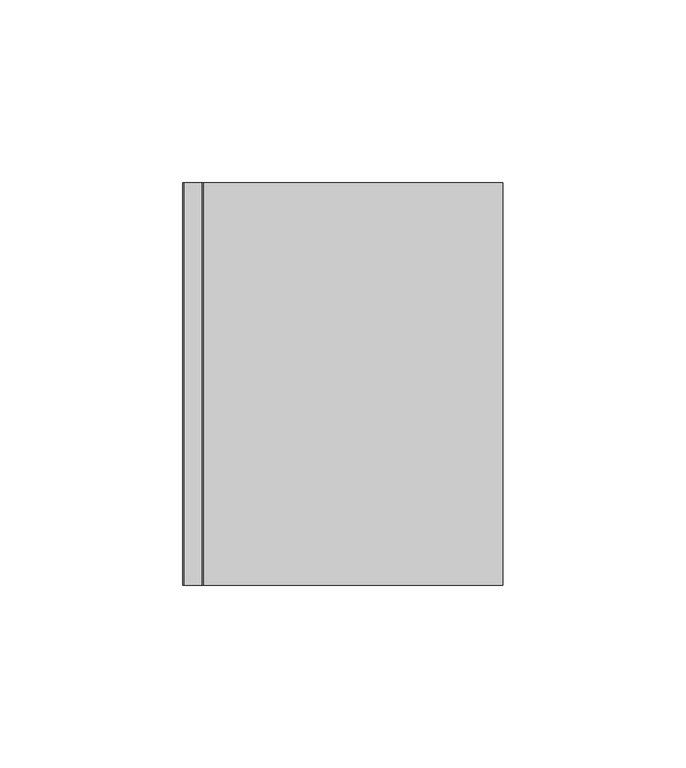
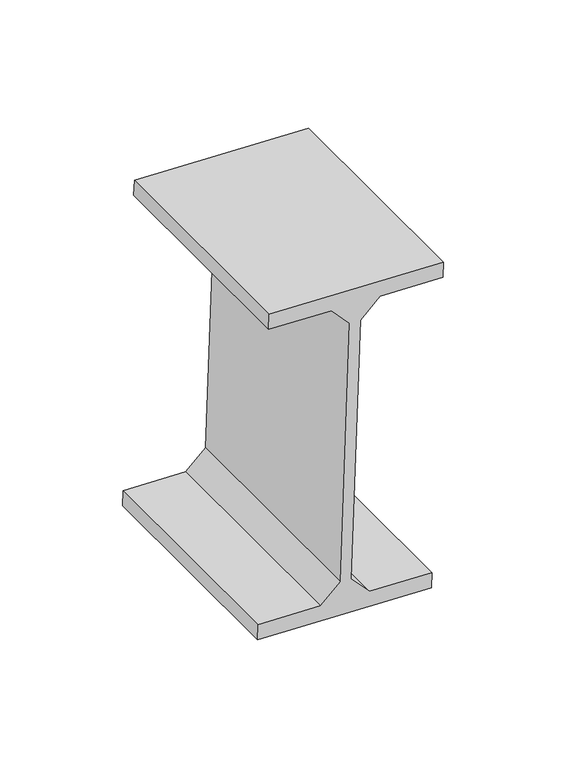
"""IFC4 building model written with IfcOpenShell, lengths in millimetres: beam geometry, Panne 6699 : Panne 6699."""

from ifc_helpers import new_model, si_unit, frame, origin, place, context, project, spatial, polyline, outline, extrude, source, transform, mapped, element, save


def beam_953cf9ca(model_context):
    return source(origin(), model_context, "Body", "SweptSolid", [
        extrude(outline(polyline([(7677.1793279, 5612.077204), (7674.3110841, 5694.0270251), (7681.7065558, 5694.2858666), (7682.738424, 5664.8039188), (7692.0477238, 5656.1242335), (7819.1698853, 5660.5735091), (7827.8495706, 5669.8828089), (7826.8177024, 5699.3647568), (7834.2131741, 5699.6235983), (7837.0814178, 5617.6737772), (7829.6859461, 5617.4149357), (7828.654078, 5646.8968835), (7819.3447782, 5655.5765688), (7692.2226167, 5651.1272932), (7683.5429313, 5641.8179934), (7684.5747995, 5612.3360455), (7677.1793279, 5612.077204)])), frame((0.0, -15.0, 0.0), z_axis=(0.0, 1.0, 0.0), x_axis=(0.0, 0.0, 1.0)), (0.0, 0.0, 1.0), 110.0),
    ])


if __name__ == "__main__":
    model = new_model("IFC4")
    model_context = context("Model", 3, world=origin())
    ifc_project = project(units=[si_unit("LENGTHUNIT", "METRE", prefix="MILLI")], contexts=[model_context])
    site = spatial("IfcSite", under=ifc_project)
    building = spatial("IfcBuilding", under=site)
    placement = place(None, origin())
    beam_shape = beam_953cf9ca(model_context)
    element("IfcBeam", 1, ObjectType="Panne 6699 : Panne 6699", at=placement, inside=building, context=model_context, shape_type="MappedRepresentation", body=[
        mapped(beam_shape, transform((0.0, 0.0, 0.0), x_axis=(1.0, 0.0, 0.0), y_axis=(0.0, 1.0, 0.0), z_axis=(0.0, 0.0, 1.0))),
    ])
    save(model, "model.ifc")
